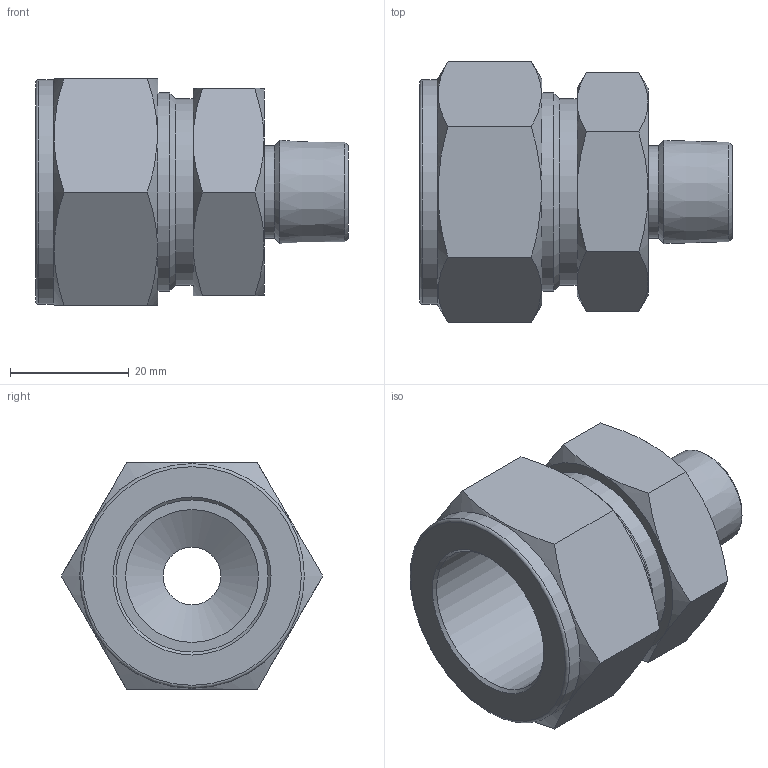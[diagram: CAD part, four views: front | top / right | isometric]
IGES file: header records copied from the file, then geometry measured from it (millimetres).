
Global section: file name: No Iges File Name specified; native system: Autodesk Inventor 2012; preprocessor: AutoDesk Inventor Iges Exporter R2012; author: 硅己绕,, ; organization: 11; date: 20150603.093425; units: millimetre
Bounding box: 52.66 x 43.99 x 38.1 mm (x, y, z)
Volume: 26987.6 mm3; surface area: 11269.4 mm2
Topology: 1 solids, 1 shells, 47 faces, 98 edges, 57 vertices
Faces by surface type: plane 18, cone 18, revolution 6, cylinder 4, torus 1
Full cylindrical faces by diameter (mm): 15.5 x1, 31.45 x1, 33.34 x1, 37.8 x1
